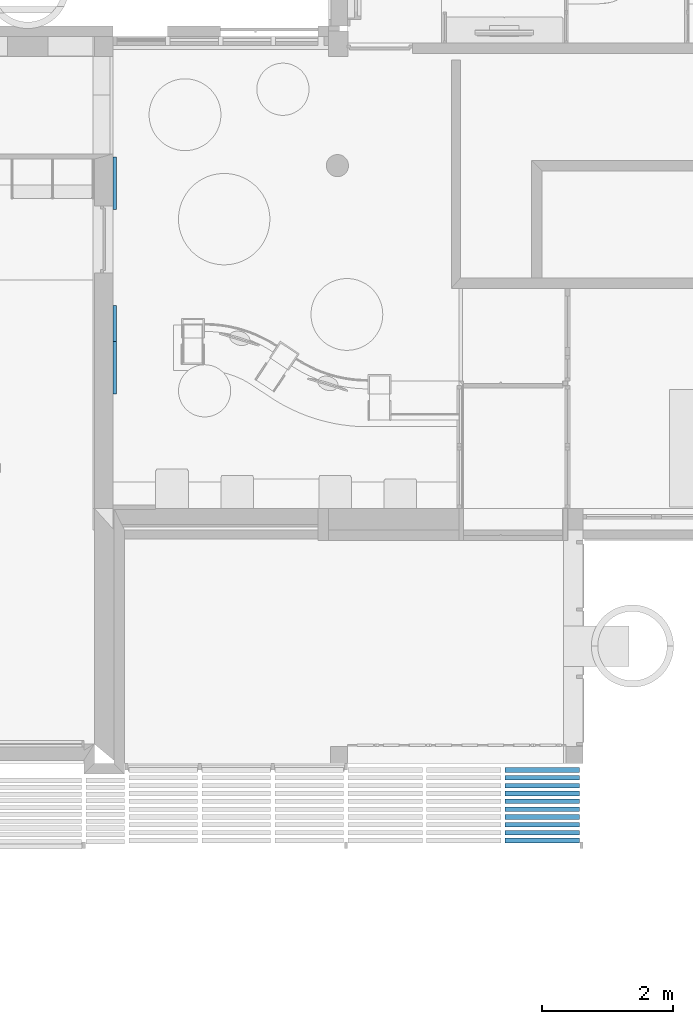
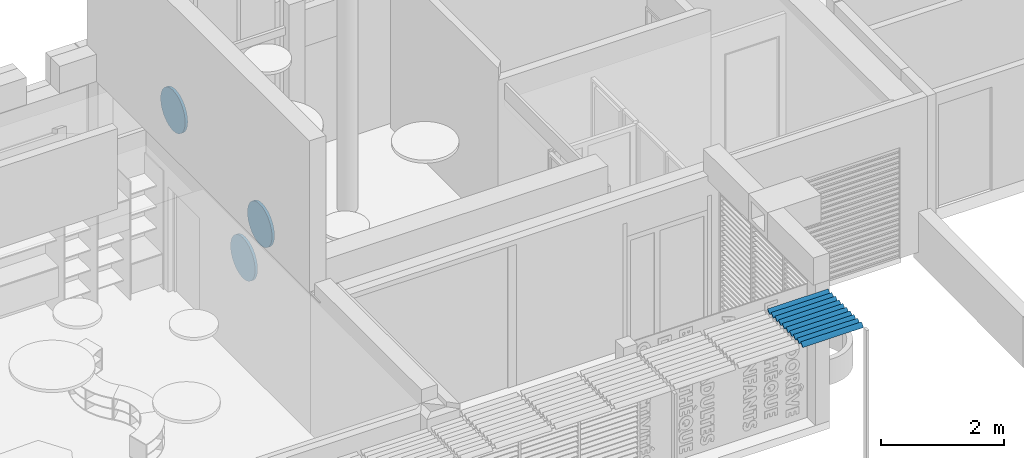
# One storey, part 35 of 64: 4 discrete accessories.
"""IFC2X3 building model written with IfcOpenShell, lengths in metres."""

from ifc_helpers import new_model, entity, si_unit, converted_unit, derived_unit, direction, frame, origin, place, context, subcontext, project, spatial, polyline, outline, extrude, source, transform, mapped, material, type_object, type_shapes, element, save


model = new_model("IFC2X3")

# Units and contexts
model_context = context("Model", 3, precision=1e-05, world=origin(), true_north=direction((6.123031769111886e-17, 1.0)))
body_context = subcontext(model_context, "Body", "Model", "MODEL_VIEW")
ifc_project = project(units=[si_unit("LENGTHUNIT", "METRE"), si_unit("AREAUNIT", "SQUARE_METRE"), si_unit("VOLUMEUNIT", "CUBIC_METRE"), converted_unit("PLANEANGLEUNIT", "DEGREE", entity("IfcRatioMeasure", 0.017453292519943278), si_unit("PLANEANGLEUNIT", "RADIAN"), dimensions=[0, 0, 0, 0, 0, 0, 0]), si_unit("MASSUNIT", "GRAM", prefix="KILO"), derived_unit("MASSDENSITYUNIT", [(si_unit("MASSUNIT", "GRAM", prefix="KILO"), 1), (si_unit("LENGTHUNIT", "METRE"), -3)]), derived_unit("MOMENTOFINERTIAUNIT", [(si_unit("LENGTHUNIT", "METRE"), 4)]), si_unit("TIMEUNIT", "SECOND"), si_unit("FREQUENCYUNIT", "HERTZ"), si_unit("THERMODYNAMICTEMPERATUREUNIT", "DEGREE_CELSIUS"), derived_unit("THERMALTRANSMITTANCEUNIT", [(si_unit("MASSUNIT", "GRAM", prefix="KILO"), 1), (si_unit("THERMODYNAMICTEMPERATUREUNIT", "KELVIN"), -1), (si_unit("TIMEUNIT", "SECOND"), -3)]), derived_unit("THERMALCONDUCTANCEUNIT", [(si_unit("MASSUNIT", "GRAM", prefix="KILO"), 1), (si_unit("LENGTHUNIT", "METRE"), 1), (si_unit("THERMODYNAMICTEMPERATUREUNIT", "KELVIN"), -1), (si_unit("TIMEUNIT", "SECOND"), -3)]), derived_unit("VOLUMETRICFLOWRATEUNIT", [(si_unit("LENGTHUNIT", "METRE"), 3), (si_unit("TIMEUNIT", "SECOND"), -1)]), derived_unit("MASSFLOWRATEUNIT", [(si_unit("MASSUNIT", "GRAM", prefix="KILO"), 1), (si_unit("TIMEUNIT", "SECOND"), -1)]), derived_unit("ROTATIONALFREQUENCYUNIT", [(si_unit("TIMEUNIT", "SECOND"), -1)]), si_unit("ELECTRICCURRENTUNIT", "AMPERE"), si_unit("ELECTRICVOLTAGEUNIT", "VOLT"), si_unit("POWERUNIT", "WATT"), si_unit("FORCEUNIT", "NEWTON", prefix="KILO"), si_unit("ILLUMINANCEUNIT", "LUX"), si_unit("LUMINOUSFLUXUNIT", "LUMEN"), si_unit("LUMINOUSINTENSITYUNIT", "CANDELA"), derived_unit("USERDEFINED", [(si_unit("MASSUNIT", "GRAM", prefix="KILO"), -1), (si_unit("LENGTHUNIT", "METRE"), -2), (si_unit("TIMEUNIT", "SECOND"), 3), (si_unit("LUMINOUSFLUXUNIT", "LUMEN"), 1)]), derived_unit("USERDEFINED", [(si_unit("MASSUNIT", "GRAM", prefix="KILO"), 1), (si_unit("LENGTHUNIT", "METRE"), 3), (si_unit("TIMEUNIT", "SECOND"), -3), (si_unit("ELECTRICCURRENTUNIT", "AMPERE"), -2)]), derived_unit("USERDEFINED", [(si_unit("LENGTHUNIT", "METRE"), 2), (si_unit("TIMEUNIT", "SECOND"), -2)]), derived_unit("SOUNDPOWERUNIT", [(si_unit("MASSUNIT", "GRAM", prefix="KILO"), 1), (si_unit("LENGTHUNIT", "METRE"), 2), (si_unit("TIMEUNIT", "SECOND"), -3)]), derived_unit("SOUNDPRESSUREUNIT", [(si_unit("MASSUNIT", "GRAM", prefix="KILO"), 1), (si_unit("LENGTHUNIT", "METRE"), -1), (si_unit("TIMEUNIT", "SECOND"), -2)]), derived_unit("LINEARVELOCITYUNIT", [(si_unit("LENGTHUNIT", "METRE"), 1), (si_unit("TIMEUNIT", "SECOND"), -1)]), si_unit("PRESSUREUNIT", "PASCAL"), derived_unit("USERDEFINED", [(si_unit("LENGTHUNIT", "METRE"), -2), (si_unit("MASSUNIT", "GRAM", prefix="KILO"), 1), (si_unit("TIMEUNIT", "SECOND"), -2)]), derived_unit("LINEARFORCEUNIT", [(si_unit("MASSUNIT", "GRAM", prefix="KILO"), 1), (si_unit("LENGTHUNIT", "METRE"), 1), (si_unit("TIMEUNIT", "SECOND"), -2), (si_unit("LENGTHUNIT", "METRE"), -1)]), derived_unit("PLANARFORCEUNIT", [(si_unit("MASSUNIT", "GRAM", prefix="KILO"), 1), (si_unit("LENGTHUNIT", "METRE"), 1), (si_unit("TIMEUNIT", "SECOND"), -2), (si_unit("LENGTHUNIT", "METRE"), -2)]), derived_unit("SPECIFICHEATCAPACITYUNIT", [(si_unit("LENGTHUNIT", "METRE"), 2), (si_unit("TIMEUNIT", "SECOND"), -2), (si_unit("THERMODYNAMICTEMPERATUREUNIT", "KELVIN"), -1)]), derived_unit("VAPORPERMEABILITYUNIT", [(si_unit("TIMEUNIT", "SECOND"), 1), (si_unit("LENGTHUNIT", "METRE"), -1)]), derived_unit("DYNAMICVISCOSITYUNIT", [(si_unit("MASSUNIT", "GRAM", prefix="KILO"), 1), (si_unit("LENGTHUNIT", "METRE"), -1), (si_unit("TIMEUNIT", "SECOND"), -1)]), derived_unit("THERMALEXPANSIONCOEFFICIENTUNIT", [(si_unit("THERMODYNAMICTEMPERATUREUNIT", "KELVIN"), -1)])], contexts=[model_context])

# Site, building, storey
site_placement = place(None, origin())
site = spatial("IfcSite", under=ifc_project, at=site_placement, Name="Default", CompositionType="ELEMENT")
building_placement = place(site_placement, origin())
building = spatial("IfcBuilding", under=site, at=building_placement, CompositionType="ELEMENT")
storey_placement = place(building_placement, origin())
storey = spatial("IfcBuildingStorey", under=building, at=storey_placement, Name="REZ-DE-CHAUSSÉE", CompositionType="ELEMENT", Elevation=0.0)

# Discrete accessories
ifc_material_1 = material(Name="Peinture - Blanc titanium")
discrete_accessory_type_1 = type_object("IfcDiscreteAccessoryType", Name="Symb-0005", material=ifc_material_1)
shared_shape_1 = source(origin(), body_context, "Body", "SweptSolid", [
    extrude(outline(polyline([(-0.0348622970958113, -0.3984778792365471), (0.03486229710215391, -0.398477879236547), (0.10352761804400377, -0.3863703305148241), (0.16904730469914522, -0.3625231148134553), (0.22943057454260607, -0.32766081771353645), (0.2828427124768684, -0.28284271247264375), (0.32766081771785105, -0.22943057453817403), (0.3625231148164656, -0.1690473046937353), (0.3863703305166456, -0.10352761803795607), (0.39847787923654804, -0.034862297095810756), (0.39847787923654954, 0.03486229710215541), (0.3863703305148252, 0.1035276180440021), (0.3625231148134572, 0.16904730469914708), (0.32766081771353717, 0.2294305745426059), (0.28284271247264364, 0.28284271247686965), (0.2294305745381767, 0.3276608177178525), (0.1690473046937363, 0.3625231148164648), (0.10352761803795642, 0.3863703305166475), (0.03486229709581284, 0.3984778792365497), (-0.03486229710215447, 0.3984778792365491), (-0.1035276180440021, 0.3863703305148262), (-0.1690473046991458, 0.3625231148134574), (-0.22943057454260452, 0.3276608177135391), (-0.28284271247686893, 0.2828427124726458), (-0.32766081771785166, 0.22943057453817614), (-0.36252311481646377, 0.16904730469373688), (-0.3863703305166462, 0.10352761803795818), (-0.39847787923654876, 0.03486229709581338), (-0.3984778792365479, -0.03486229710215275), (-0.3863703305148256, -0.10352761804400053), (-0.36252311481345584, -0.1690473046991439), (-0.3276608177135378, -0.22943057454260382), (-0.2828427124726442, -0.28284271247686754), (-0.22943057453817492, -0.3276608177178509), (-0.16904730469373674, -0.3625231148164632), (-0.10352761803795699, -0.3863703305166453), (-0.0348622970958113, -0.3984778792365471)])), frame((117.38075228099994, 13.057209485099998, 3.2999999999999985), z_axis=(1.0, 0.0, 0.0), x_axis=(0.0, 0.965925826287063, -0.25881904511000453)), (0.0, 0.0, 1.0), 0.05000000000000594),
])
type_shapes(discrete_accessory_type_1, [shared_shape_1])
discrete_accessory_1_placement = place(storey_placement, origin())
element("IfcDiscreteAccessory", 1, at=discrete_accessory_1_placement, inside=storey, type_object=discrete_accessory_type_1, material=ifc_material_1, Name="Symb-0005:Symb-0005", ObjectType="Symb-0005:Symb-0005", context=body_context, shape_type="MappedRepresentation", body=[
    mapped(shared_shape_1, transform((0.0, 0.0, 0.0), scale=1.0)),
])
discrete_accessory_type_2 = type_object("IfcDiscreteAccessoryType", Name="Symb-0007", material=ifc_material_1)
shared_shape_2 = source(origin(), body_context, "Body", "SweptSolid", [
    extrude(outline(polyline([(-0.03486229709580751, -0.39847787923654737), (0.034862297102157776, -0.39847787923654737), (0.10352761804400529, -0.38637033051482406), (0.1690473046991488, -0.3625231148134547), (0.22943057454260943, -0.32766081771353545), (0.2828427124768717, -0.28284271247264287), (0.32766081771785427, -0.22943057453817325), (0.3625231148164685, -0.1690473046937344), (0.38637033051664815, -0.1035276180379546), (0.3984778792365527, -0.03486229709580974), (0.3984778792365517, 0.03486229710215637), (0.3863703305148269, 0.1035276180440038), (0.36252311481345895, 0.1690473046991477), (0.3276608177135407, 0.22943057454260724), (0.28284271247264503, 0.2828427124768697), (0.22943057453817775, 0.32766081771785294), (0.16904730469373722, 0.36252311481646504), (0.10352761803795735, 0.3863703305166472), (0.03486229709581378, 0.39847787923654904), (-0.0348622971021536, 0.3984778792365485), (-0.10352761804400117, 0.38637033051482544), (-0.16904730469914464, 0.3625231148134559), (-0.22943057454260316, 0.3276608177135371), (-0.2828427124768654, 0.28284271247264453), (-0.32766081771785, 0.22943057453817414), (-0.362523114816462, 0.16904730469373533), (-0.38637033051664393, 0.10352761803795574), (-0.3984778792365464, 0.03486229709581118), (-0.3984778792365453, -0.03486229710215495), (-0.3863703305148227, -0.10352761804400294), (-0.3625231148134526, -0.169047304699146), (-0.3276608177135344, -0.2294305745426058), (-0.28284271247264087, -0.2828427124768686), (-0.22943057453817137, -0.3276608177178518), (-0.16904730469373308, -0.36252311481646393), (-0.10352761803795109, -0.38637033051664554), (-0.03486229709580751, -0.39847787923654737)])), frame((117.38075228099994, 10.782209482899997, 1.7499999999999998), z_axis=(1.0, 0.0, 0.0), x_axis=(0.0, 0.965925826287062, -0.25881904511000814)), (0.0, 0.0, 1.0), 0.050000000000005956),
])
type_shapes(discrete_accessory_type_2, [shared_shape_2])
discrete_accessory_2_placement = place(storey_placement, origin())
element("IfcDiscreteAccessory", 2, at=discrete_accessory_2_placement, inside=storey, type_object=discrete_accessory_type_2, material=ifc_material_1, Name="Symb-0007 240143:Symb-0007 240143", ObjectType="Symb-0007 240143:Symb-0007 240143", context=body_context, shape_type="MappedRepresentation", body=[
    mapped(shared_shape_2, transform((0.0, 0.0, 0.0), scale=1.0)),
])
discrete_accessory_type_3 = type_object("IfcDiscreteAccessoryType", Name="Symb-0008", material=ifc_material_1)
shared_shape_3 = source(origin(), body_context, "Body", "SweptSolid", [
    extrude(outline(polyline([(-0.03486229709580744, -0.3984778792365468), (0.03486229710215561, -0.3984778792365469), (0.10352761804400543, -0.3863703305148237), (0.16904730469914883, -0.3625231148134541), (0.22943057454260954, -0.327660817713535), (0.2828427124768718, -0.2828427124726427), (0.32766081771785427, -0.22943057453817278), (0.3625231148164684, -0.16904730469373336), (0.38637033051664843, -0.10352761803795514), (0.3984778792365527, -0.03486229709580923), (0.39847787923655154, 0.034862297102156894), (0.3863703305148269, 0.10352761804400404), (0.3625231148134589, 0.1690473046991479), (0.32766081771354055, 0.2294305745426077), (0.28284271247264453, 0.2828427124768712), (0.2294305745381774, 0.3276608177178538), (0.16904730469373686, 0.362523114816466), (0.10352761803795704, 0.3863703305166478), (0.03486229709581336, 0.39847787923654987), (-0.034862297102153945, 0.398477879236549), (-0.1035276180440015, 0.3863703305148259), (-0.16904730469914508, 0.3625231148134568), (-0.22943057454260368, 0.3276608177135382), (-0.2828427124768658, 0.28284271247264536), (-0.32766081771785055, 0.22943057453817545), (-0.3625231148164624, 0.16904730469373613), (-0.3863703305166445, 0.1035276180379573), (-0.3984778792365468, 0.03486229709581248), (-0.39847787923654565, -0.03486229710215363), (-0.386370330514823, -0.10352761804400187), (-0.362523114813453, -0.16904730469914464), (-0.32766081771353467, -0.22943057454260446), (-0.2828427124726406, -0.28284271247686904), (-0.2294305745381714, -0.32766081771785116), (-0.16904730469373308, -0.36252311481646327), (-0.10352761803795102, -0.38637033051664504), (-0.03486229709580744, -0.3984778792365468)])), frame((117.38075228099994, 10.232209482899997, 2.749999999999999), z_axis=(1.0, 0.0, 0.0), x_axis=(0.0, 0.9659258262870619, -0.25881904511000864)), (0.0, 0.0, 1.0), 0.050000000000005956),
])
type_shapes(discrete_accessory_type_3, [shared_shape_3])
discrete_accessory_3_placement = place(storey_placement, origin())
element("IfcDiscreteAccessory", 3, at=discrete_accessory_3_placement, inside=storey, type_object=discrete_accessory_type_3, material=ifc_material_1, Name="Symb-0008 240173:Symb-0008 240173", ObjectType="Symb-0008 240173:Symb-0008 240173", context=body_context, shape_type="MappedRepresentation", body=[
    mapped(shared_shape_3, transform((0.0, 0.0, 0.0), scale=1.0)),
])
ifc_material_2 = material(Name="Bois - Chêne clair")
discrete_accessory_type_4 = type_object("IfcDiscreteAccessoryType", Name="Symb-0003", material=ifc_material_2)
shared_shape_4 = source(origin(), body_context, "Body", "SweptSolid", [
    extrude(outline(polyline([(-0.046423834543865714, -0.018569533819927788), (-0.028473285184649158, -0.0185695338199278), (-0.01176070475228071, -0.01547461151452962), (0.019188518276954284, -0.0030949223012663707), (0.033425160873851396, 0.00618984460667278), (0.04642383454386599, 0.01856953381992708), (0.028473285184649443, 0.018569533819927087), (0.011760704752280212, 0.015474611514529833), (-0.019188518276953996, 0.0030949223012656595), (-0.0334251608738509, -0.006189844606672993), (-0.046423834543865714, -0.018569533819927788)])), frame((123.38074673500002, 4.0672094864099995, 2.6500000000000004), z_axis=(1.0, 0.0, 0.0), x_axis=(0.0, 0.9191450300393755, 0.3939192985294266)), (0.0, 0.0, 1.0), 1.139999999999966),
    extrude(outline(polyline([(-0.04642383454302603, -0.018569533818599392), (-0.02847328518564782, -0.018569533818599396), (-0.011760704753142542, -0.015474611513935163), (0.019188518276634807, -0.0030949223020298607), (0.03342516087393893, 0.0061898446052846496), (0.04642383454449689, 0.018569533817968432), (0.028473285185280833, 0.018569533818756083), (0.011760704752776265, 0.015474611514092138), (-0.019188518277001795, 0.0030949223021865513), (-0.033425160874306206, -0.0061898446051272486), (-0.04642383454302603, -0.018569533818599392)])), frame((123.38074673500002, 3.947209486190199, 2.6500000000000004), z_axis=(1.0, 0.0, 0.0), x_axis=(0.0, 0.9191450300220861, 0.39391929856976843)), (0.0, 0.0, 1.0), 1.1399999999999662),
    extrude(outline(polyline([(-0.04642383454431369, -0.01856953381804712), (-0.028473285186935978, -0.01856953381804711), (-0.011760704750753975, -0.015474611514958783), (0.019188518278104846, -0.003094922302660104), (0.033425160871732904, 0.00618984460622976), (0.046423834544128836, 0.018569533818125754), (0.02847328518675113, 0.01856953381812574), (0.011760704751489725, 0.015474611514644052), (-0.01918851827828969, 0.0030949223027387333), (-0.033425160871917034, -0.006189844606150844), (-0.04642383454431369, -0.01856953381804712)])), frame((123.38074673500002, 3.8272094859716, 2.6500000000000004), z_axis=(1.0, 0.0, 0.0), x_axis=(0.0, 0.9191450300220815, 0.3939192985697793)), (0.0, 0.0, 1.0), 1.1399999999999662),
    extrude(outline(polyline([(-0.04642383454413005, -0.01856953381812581), (-0.028473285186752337, -0.0185695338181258), (-0.01176070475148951, -0.01547461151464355), (0.01918851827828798, -0.0030949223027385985), (0.03342516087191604, 0.006189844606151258), (0.04642383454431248, 0.018569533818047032), (0.028473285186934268, 0.01856953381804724), (0.011760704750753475, 0.015474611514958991), (-0.019188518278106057, 0.0030949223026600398), (-0.033425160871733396, -0.006189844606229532), (-0.04642383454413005, -0.01856953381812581)])), frame((123.38074673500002, 3.7072094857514, 2.6500000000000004), z_axis=(1.0, 0.0, 0.0), x_axis=(0.0, 0.9191450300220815, 0.3939192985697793)), (0.0, 0.0, 1.0), 1.1399999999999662),
    extrude(outline(polyline([(-0.04642383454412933, -0.018569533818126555), (-0.028473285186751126, -0.018569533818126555), (-0.01176070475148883, -0.015474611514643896), (0.019188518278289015, -0.0030949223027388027), (0.033425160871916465, 0.006189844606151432), (0.04642383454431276, 0.018569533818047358), (0.02847328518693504, 0.018569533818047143), (0.011760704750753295, 0.015474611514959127), (-0.019188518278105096, 0.003094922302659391), (-0.03342516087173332, -0.00618984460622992), (-0.04642383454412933, -0.018569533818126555)])), frame((123.38074673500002, 3.5872094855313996, 2.6500000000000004), z_axis=(1.0, 0.0, 0.0), x_axis=(0.0, 0.9191450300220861, 0.39391929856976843)), (0.0, 0.0, 1.0), 1.1399999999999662),
    extrude(outline(polyline([(-0.046423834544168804, -0.018569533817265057), (-0.02847328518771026, -0.018569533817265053), (-0.011760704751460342, -0.015474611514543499), (0.019188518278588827, -0.003094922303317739), (0.03342516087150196, 0.006189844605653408), (0.04642383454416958, 0.01856953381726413), (0.02847328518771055, 0.018569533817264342), (0.01176070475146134, 0.01547461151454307), (-0.019188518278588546, 0.0030949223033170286), (-0.03342516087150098, -0.006189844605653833), (-0.046423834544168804, -0.018569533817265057)])), frame((123.38074673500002, 3.4672094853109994, 2.6500000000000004), z_axis=(1.0, 0.0, 0.0), x_axis=(0.0, 0.9191450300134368, 0.3939192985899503)), (0.0, 0.0, 1.0), 1.139999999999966),
    extrude(outline(polyline([(-0.046423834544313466, -0.018569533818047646), (-0.028473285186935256, -0.018569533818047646), (-0.011760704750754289, -0.015474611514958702), (0.019188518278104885, -0.003094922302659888), (0.03342516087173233, 0.006189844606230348), (0.04642383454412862, 0.018569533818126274), (0.028473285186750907, 0.01856953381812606), (0.01176070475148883, 0.015474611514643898), (-0.01918851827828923, 0.0030949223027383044), (-0.03342516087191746, -0.006189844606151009), (-0.046423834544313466, -0.018569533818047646)])), frame((123.38074673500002, 3.3472094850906, 2.6500000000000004), z_axis=(1.0, 0.0, 0.0), x_axis=(0.0, 0.9191450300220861, 0.39391929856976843)), (0.0, 0.0, 1.0), 1.1399999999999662),
    extrude(outline(polyline([(-0.04642383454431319, -0.018569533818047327), (-0.02847328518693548, -0.018569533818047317), (-0.011760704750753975, -0.015474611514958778), (0.019188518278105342, -0.0030949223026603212), (0.033425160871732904, 0.006189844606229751), (0.046423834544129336, 0.01856953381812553), (0.02847328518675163, 0.018569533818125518), (0.011760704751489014, 0.015474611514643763), (-0.019188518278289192, 0.0030949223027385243), (-0.033425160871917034, -0.006189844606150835), (-0.04642383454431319, -0.018569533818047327)])), frame((123.38074673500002, 3.2272094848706, 2.6500000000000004), z_axis=(1.0, 0.0, 0.0), x_axis=(0.0, 0.9191450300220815, 0.3939192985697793)), (0.0, 0.0, 1.0), 1.1399999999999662),
    extrude(outline(polyline([(-0.04642383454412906, -0.018569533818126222), (-0.028473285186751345, -0.01856953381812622), (-0.011760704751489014, -0.015474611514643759), (0.01918851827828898, -0.00309492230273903), (0.033425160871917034, 0.006189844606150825), (0.046423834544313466, 0.018569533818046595), (0.028473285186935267, 0.018569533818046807), (0.011760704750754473, 0.015474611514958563), (-0.019188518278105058, 0.003094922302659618), (-0.033425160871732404, -0.006189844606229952), (-0.04642383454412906, -0.018569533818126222)])), frame((123.38074673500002, 3.1072094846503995, 2.6500000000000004), z_axis=(1.0, 0.0, 0.0), x_axis=(0.0, 0.9191450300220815, 0.3939192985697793)), (0.0, 0.0, 1.0), 1.1399999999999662),
    extrude(outline(polyline([(-0.04642383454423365, -0.01856953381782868), (-0.028473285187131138, -0.01856953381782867), (-0.011760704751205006, -0.015474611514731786), (0.01918851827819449, -0.003094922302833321), (0.03342516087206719, 0.0061898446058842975), (0.046423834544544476, 0.01856953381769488), (0.028473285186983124, 0.018569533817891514), (0.011760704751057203, 0.01547461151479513), (-0.01918851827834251, 0.0030949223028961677), (-0.033425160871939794, -0.006189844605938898), (-0.04642383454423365, -0.01856953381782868)])), frame((123.38074673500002, 2.9872094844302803, 2.6500000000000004), z_axis=(1.0, 0.0, 0.0), x_axis=(0.0, 0.9191450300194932, 0.3939192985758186)), (0.0, 0.0, 1.0), 1.1399999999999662),
])
type_shapes(discrete_accessory_type_4, [shared_shape_4])
discrete_accessory_4_placement = place(storey_placement, origin())
element("IfcDiscreteAccessory", 4, at=discrete_accessory_4_placement, inside=storey, type_object=discrete_accessory_type_4, material=ifc_material_2, Name="Symb-0003 451881:Symb-0003 451881", ObjectType="Symb-0003 451881:Symb-0003 451881", context=body_context, shape_type="MappedRepresentation", body=[
    mapped(shared_shape_4, transform((0.0, 0.0, 0.0), scale=1.0)),
])

save(model, "model.ifc")
